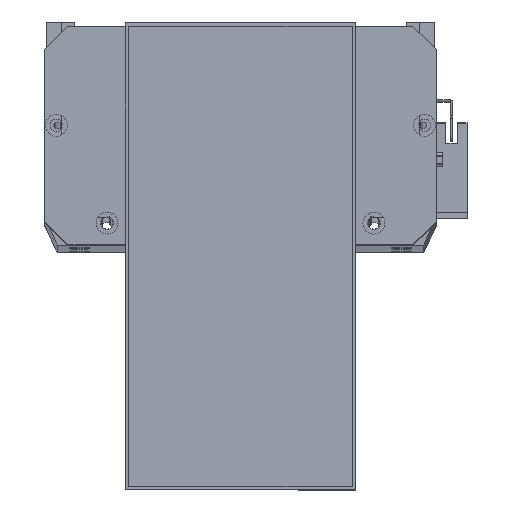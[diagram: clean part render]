
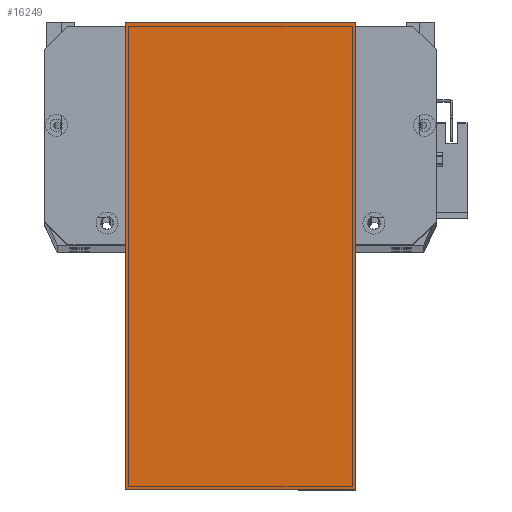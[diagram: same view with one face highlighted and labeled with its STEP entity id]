
A CAD part, top view. The second image highlights one B-rep face of the part: STEP entity #16249.
In plain terms, the highlighted planar face has unit normal (0, 0, 1) as drawn and (0, 0, -1) by its records, which use the part's own axes.
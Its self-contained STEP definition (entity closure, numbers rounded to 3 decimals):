
#330 = VERTEX_POINT ( 'NONE', #27137 ) ;
#720 = EDGE_CURVE ( 'NONE', #12414, #14804, #12236, .T. ) ;
#984 = ORIENTED_EDGE ( 'NONE', *, *, #720, .F. ) ;
#1513 = EDGE_CURVE ( 'NONE', #330, #12414, #8514, .T. ) ;
#1859 = EDGE_CURVE ( 'NONE', #18243, #14804, #5854, .T. ) ;
#2832 = DIRECTION ( 'NONE',  ( 1., 0., 0. ) ) ;
#3259 = AXIS2_PLACEMENT_3D ( 'NONE', #30110, #6341, #23022 ) ;
#3901 = PLANE ( 'NONE',  #3259 ) ;
#4196 = CARTESIAN_POINT ( 'NONE',  ( -12., 19.5, 0. ) ) ;
#5002 = CARTESIAN_POINT ( 'NONE',  ( 0., 0., 0. ) ) ;
#5050 = ORIENTED_EDGE ( 'NONE', *, *, #1859, .T. ) ;
#5589 = CARTESIAN_POINT ( 'NONE',  ( 203., 0., 0. ) ) ;
#5854 = LINE ( 'NONE', #14500, #16986 ) ;
#6341 = DIRECTION ( 'NONE',  ( 0., 0., -1. ) ) ;
#8514 = LINE ( 'NONE', #4196, #15556 ) ;
#11474 = VECTOR ( 'NONE', #26249, 1000. ) ;
#12236 = LINE ( 'NONE', #5589, #11474 ) ;
#12414 = VERTEX_POINT ( 'NONE', #14014 ) ;
#12958 = ORIENTED_EDGE ( 'NONE', *, *, #17050, .F. ) ;
#14014 = CARTESIAN_POINT ( 'NONE',  ( 203., 19.5, 0. ) ) ;
#14500 = CARTESIAN_POINT ( 'NONE',  ( -12., 119.5, 0. ) ) ;
#14804 = VERTEX_POINT ( 'NONE', #28601 ) ;
#15556 = VECTOR ( 'NONE', #2832, 1000. ) ;
#16249 = ADVANCED_FACE ( 'NONE', ( #17490 ), #3901, .T. ) ;
#16986 = VECTOR ( 'NONE', #21702, 1000. ) ;
#17050 = EDGE_CURVE ( 'NONE', #18243, #330, #26050, .T. ) ;
#17490 = FACE_OUTER_BOUND ( 'NONE', #26491, .T. ) ;
#18243 = VERTEX_POINT ( 'NONE', #25155 ) ;
#19271 = DIRECTION ( 'NONE',  ( 0., -1., 0. ) ) ;
#19693 = VECTOR ( 'NONE', #19271, 1000. ) ;
#21702 = DIRECTION ( 'NONE',  ( 1., 0., 0. ) ) ;
#23022 = DIRECTION ( 'NONE',  ( -1., 0., 0. ) ) ;
#25155 = CARTESIAN_POINT ( 'NONE',  ( 0., 119.5, 0. ) ) ;
#26050 = LINE ( 'NONE', #5002, #19693 ) ;
#26249 = DIRECTION ( 'NONE',  ( 0., 1., 0. ) ) ;
#26491 = EDGE_LOOP ( 'NONE', ( #27178, #12958, #5050, #984 ) ) ;
#27137 = CARTESIAN_POINT ( 'NONE',  ( 0., 19.5, 0. ) ) ;
#27178 = ORIENTED_EDGE ( 'NONE', *, *, #1513, .F. ) ;
#28601 = CARTESIAN_POINT ( 'NONE',  ( 203., 119.5, 0. ) ) ;
#30110 = CARTESIAN_POINT ( 'NONE',  ( 0., 0., 0. ) ) ;
